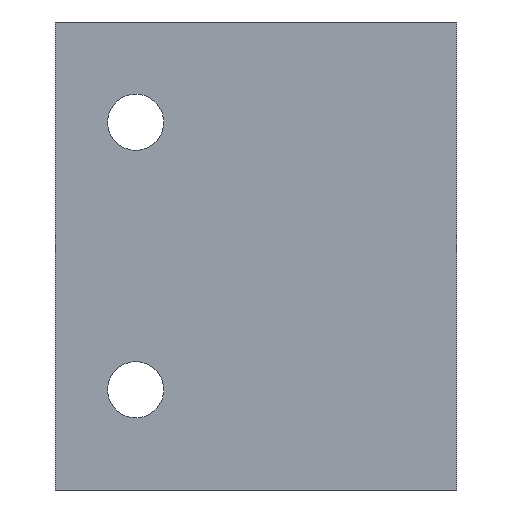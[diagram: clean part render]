
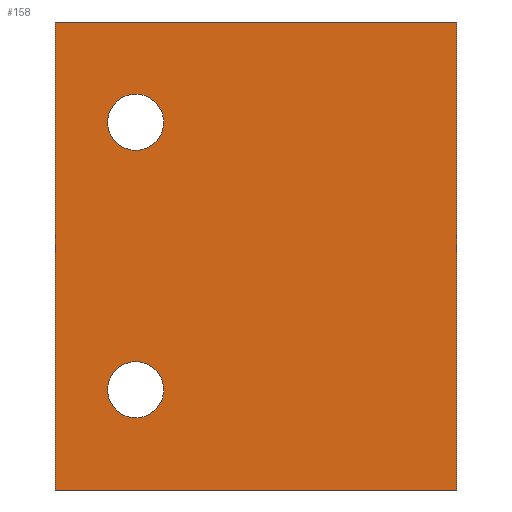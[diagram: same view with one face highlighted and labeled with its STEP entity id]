
A CAD part, left-side view. The second image highlights one B-rep face of the part: STEP entity #158.
In plain terms, the highlighted planar face has unit normal (-1, 0, 0).
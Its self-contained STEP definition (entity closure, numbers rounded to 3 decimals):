
#1 = EDGE_LOOP ( 'NONE', ( #329, #330 ) ) ;
#25 = VECTOR ( 'NONE', #257, 1000. ) ;
#27 = LINE ( 'NONE', #251, #25 ) ;
#28 = CIRCLE ( 'NONE', #428, 2.1 ) ;
#31 = CIRCLE ( 'NONE', #418, 2.1 ) ;
#34 = CIRCLE ( 'NONE', #473, 2.1 ) ;
#41 = CIRCLE ( 'NONE', #472, 2.1 ) ;
#71 = VERTEX_POINT ( 'NONE', #101 ) ;
#75 = VERTEX_POINT ( 'NONE', #91 ) ;
#79 = VERTEX_POINT ( 'NONE', #89 ) ;
#80 = VERTEX_POINT ( 'NONE', #87 ) ;
#81 = VERTEX_POINT ( 'NONE', #92 ) ;
#82 = VERTEX_POINT ( 'NONE', #93 ) ;
#87 = CARTESIAN_POINT ( 'NONE',  ( 0., 30., 0. ) ) ;
#89 = CARTESIAN_POINT ( 'NONE',  ( 0., 24., 25.4 ) ) ;
#91 = CARTESIAN_POINT ( 'NONE',  ( 0., 30., 35. ) ) ;
#92 = CARTESIAN_POINT ( 'NONE',  ( 0., 24., 29.6 ) ) ;
#93 = CARTESIAN_POINT ( 'NONE',  ( 0., 0., 0. ) ) ;
#95 = CARTESIAN_POINT ( 'NONE',  ( 0., 24., 5.4 ) ) ;
#96 = CARTESIAN_POINT ( 'NONE',  ( 0., 24., 9.6 ) ) ;
#101 = CARTESIAN_POINT ( 'NONE',  ( 0., 0., 35. ) ) ;
#105 = VERTEX_POINT ( 'NONE', #95 ) ;
#106 = VERTEX_POINT ( 'NONE', #96 ) ;
#120 = CARTESIAN_POINT ( 'NONE',  ( 0., 30., 0. ) ) ;
#121 = DIRECTION ( 'NONE',  ( 0., -1., 0. ) ) ;
#126 = CARTESIAN_POINT ( 'NONE',  ( 0., 24., 7.5 ) ) ;
#128 = DIRECTION ( 'NONE',  ( -1., 0., 0. ) ) ;
#129 = DIRECTION ( 'NONE',  ( 0., 0., 1. ) ) ;
#152 = EDGE_LOOP ( 'NONE', ( #371, #372, #373, #374 ) ) ;
#158 = ADVANCED_FACE ( 'NONE', ( #333, #336, #338 ), #307, .F. ) ;
#180 = LINE ( 'NONE', #241, #181 ) ;
#181 = VECTOR ( 'NONE', #242, 1000. ) ;
#184 = LINE ( 'NONE', #245, #185 ) ;
#185 = VECTOR ( 'NONE', #246, 1000. ) ;
#186 = EDGE_LOOP ( 'NONE', ( #327, #328 ) ) ;
#203 = LINE ( 'NONE', #120, #204 ) ;
#204 = VECTOR ( 'NONE', #121, 1000. ) ;
#241 = CARTESIAN_POINT ( 'NONE',  ( 0., 30., 35. ) ) ;
#242 = DIRECTION ( 'NONE',  ( 0., -1., 0. ) ) ;
#245 = CARTESIAN_POINT ( 'NONE',  ( 0., 30., 35. ) ) ;
#246 = DIRECTION ( 'NONE',  ( 0., 0., -1. ) ) ;
#251 = CARTESIAN_POINT ( 'NONE',  ( 0., 0., 35. ) ) ;
#253 = CARTESIAN_POINT ( 'NONE',  ( 0., 24., 27.5 ) ) ;
#254 = DIRECTION ( 'NONE',  ( -1., 0., 0. ) ) ;
#255 = DIRECTION ( 'NONE',  ( 0., 0., 1. ) ) ;
#257 = DIRECTION ( 'NONE',  ( 0., 0., -1. ) ) ;
#258 = CARTESIAN_POINT ( 'NONE',  ( 0., 24., 7.5 ) ) ;
#259 = CARTESIAN_POINT ( 'NONE',  ( 0., 24., 27.5 ) ) ;
#260 = DIRECTION ( 'NONE',  ( -1., 0., 0. ) ) ;
#261 = DIRECTION ( 'NONE',  ( 0., 0., 1. ) ) ;
#266 = DIRECTION ( 'NONE',  ( -1., 0., 0. ) ) ;
#267 = DIRECTION ( 'NONE',  ( 0., 0., 1. ) ) ;
#305 = DIRECTION ( 'NONE',  ( 0., 1., 0. ) ) ;
#307 = PLANE ( 'NONE',  #420 ) ;
#308 = DIRECTION ( 'NONE',  ( 1., 0., 0. ) ) ;
#310 = CARTESIAN_POINT ( 'NONE',  ( 0., 30., 35. ) ) ;
#327 = ORIENTED_EDGE ( 'NONE', *, *, #434, .F. ) ;
#328 = ORIENTED_EDGE ( 'NONE', *, *, #482, .F. ) ;
#329 = ORIENTED_EDGE ( 'NONE', *, *, #436, .F. ) ;
#330 = ORIENTED_EDGE ( 'NONE', *, *, #431, .F. ) ;
#333 = FACE_BOUND ( 'NONE', #186, .T. ) ;
#336 = FACE_BOUND ( 'NONE', #1, .T. ) ;
#338 = FACE_OUTER_BOUND ( 'NONE', #152, .T. ) ;
#371 = ORIENTED_EDGE ( 'NONE', *, *, #455, .T. ) ;
#372 = ORIENTED_EDGE ( 'NONE', *, *, #433, .F. ) ;
#373 = ORIENTED_EDGE ( 'NONE', *, *, #422, .F. ) ;
#374 = ORIENTED_EDGE ( 'NONE', *, *, #424, .T. ) ;
#418 = AXIS2_PLACEMENT_3D ( 'NONE', #258, #260, #261 ) ;
#420 = AXIS2_PLACEMENT_3D ( 'NONE', #310, #308, #305 ) ;
#422 = EDGE_CURVE ( 'NONE', #75, #71, #180, .T. ) ;
#424 = EDGE_CURVE ( 'NONE', #75, #80, #184, .T. ) ;
#428 = AXIS2_PLACEMENT_3D ( 'NONE', #253, #254, #255 ) ;
#431 = EDGE_CURVE ( 'NONE', #79, #81, #28, .T. ) ;
#433 = EDGE_CURVE ( 'NONE', #71, #82, #27, .T. ) ;
#434 = EDGE_CURVE ( 'NONE', #106, #105, #31, .T. ) ;
#436 = EDGE_CURVE ( 'NONE', #81, #79, #34, .T. ) ;
#455 = EDGE_CURVE ( 'NONE', #80, #82, #203, .T. ) ;
#472 = AXIS2_PLACEMENT_3D ( 'NONE', #126, #128, #129 ) ;
#473 = AXIS2_PLACEMENT_3D ( 'NONE', #259, #266, #267 ) ;
#482 = EDGE_CURVE ( 'NONE', #105, #106, #41, .T. ) ;
